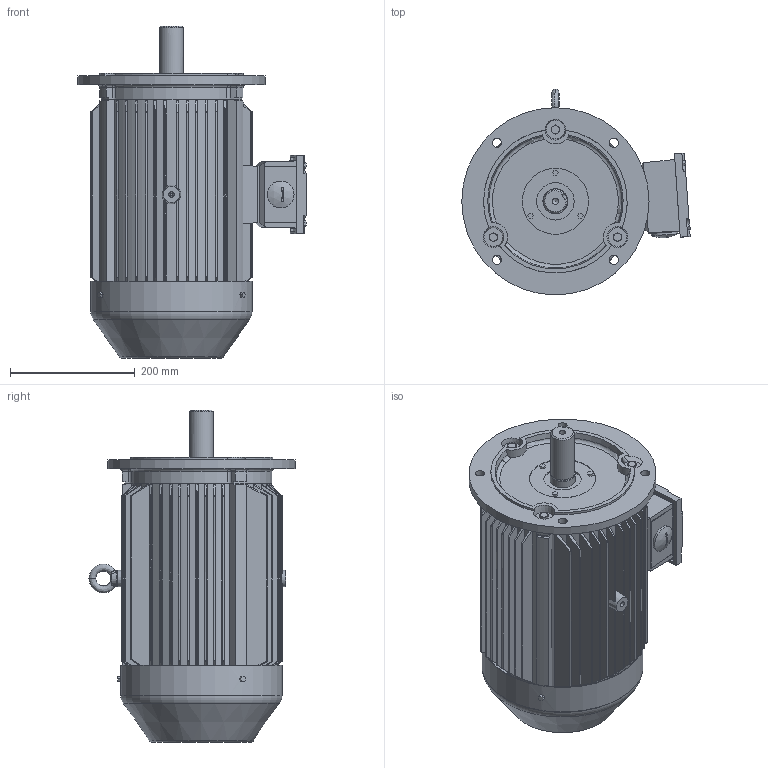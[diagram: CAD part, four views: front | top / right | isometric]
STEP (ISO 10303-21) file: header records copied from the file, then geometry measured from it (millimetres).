
FILE_DESCRIPTION(/* description */ (''),/* implementation_level */ '2;1');
FILE_NAME(/* name */ 'C:/Users/luigi_zhang/Desktop/temp/TE3-132M B5.step',/* time_stamp */ '2020-07-01T16:11:26+10:00',/* author */ (''),/* organization */ (''),/* preprocessor_version */ 'ST-DEVELOPER v18.1',/* originating_system */ 'Autodesk Translation Framework v9.3.0.1241',/* authorisation */ '');
FILE_SCHEMA (('AUTOMOTIVE_DESIGN { 1 0 10303 214 3 1 1 }'));
Products named in the file (10): (Unsaved); »ú×ùYX3-132M B5; GX132 P24 Í¹Ôµ¶Ë¸Ç; TE3-132 ·çÕÖ; TE3-132 ÖáÉì; eyebolts gb_GB_FASTENER_SCREWS_FRS M10-N; TE3-112~132½ÓÏßºÐ; GX132 P24 ½ÓÏßºÐ×ù; GX112~132 P24½ÓÏßºÐ¸Ç; hexagon head bolts--product grade c gb_GB_FASTENER_BOLT_HHBC M8X40-N
Assembly tree (11 placements, depth 3):
  (Unsaved)
    »ú×ùYX3-132M B5
    GX132 P24 Í¹Ôµ¶Ë¸Ç
    TE3-132 ·çÕÖ
    TE3-132 ÖáÉì
    eyebolts gb_GB_FASTENER_SCREWS_FRS M10-N
    hexagon head bolts--product grade c gb_GB_FASTENER_BOLT_HHBC M8X40-N  x3
    TE3-112~132½ÓÏßºÐ
      GX132 P24 ½ÓÏßºÐ×ù
      GX112~132 P24½ÓÏßºÐ¸Ç
Bounding box: 365.94 x 330.1 x 532 mm (x, y, z)
Volume: 16332046.9 mm3; surface area: 1377433 mm2
Topology: 11 solids, 11 shells, 1167 faces, 2834 edges, 1872 vertices
Faces by surface type: plane 866, cylinder 135, bspline 79, cone 62, torus 18, sphere 7
Full cylindrical faces by diameter (mm): 5 x8, 8 x7, 10 x4, 10.2 x1, 12.669 x1, 14.5 x4, 23.72 x1, 38 x1, 40 x2, 42.7 x1, 60 x1, 106 x1, 215 x1, 256.4 x1, 258.4 x1, 300 x1
Entity records: 51340 total; most frequent: CARTESIAN_POINT 25104, ORIENTED_EDGE 5514, DIRECTION 4834, EDGE_CURVE 2757, LINE 2014, VECTOR 2014, VERTEX_POINT 1826, AXIS2_PLACEMENT_3D 1410
